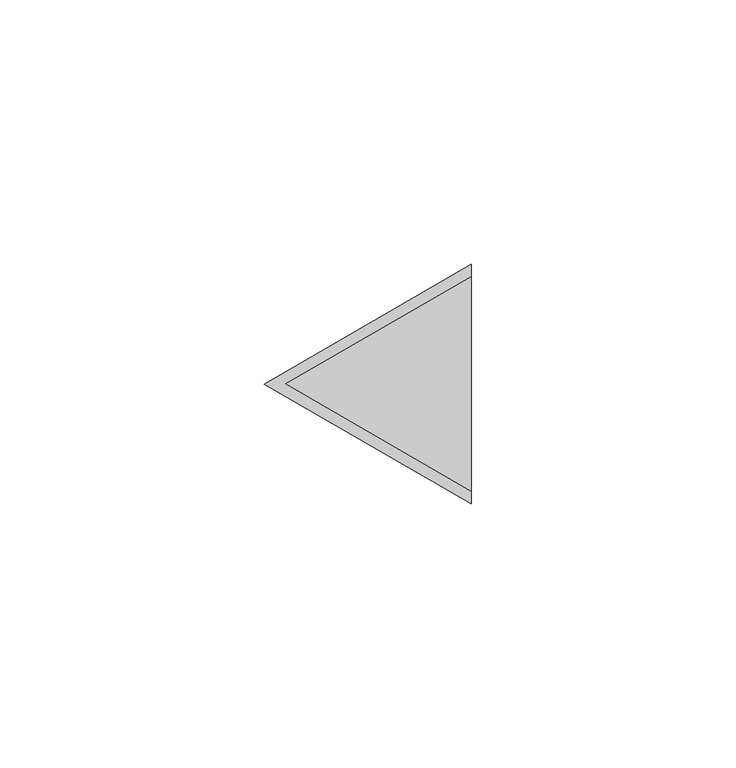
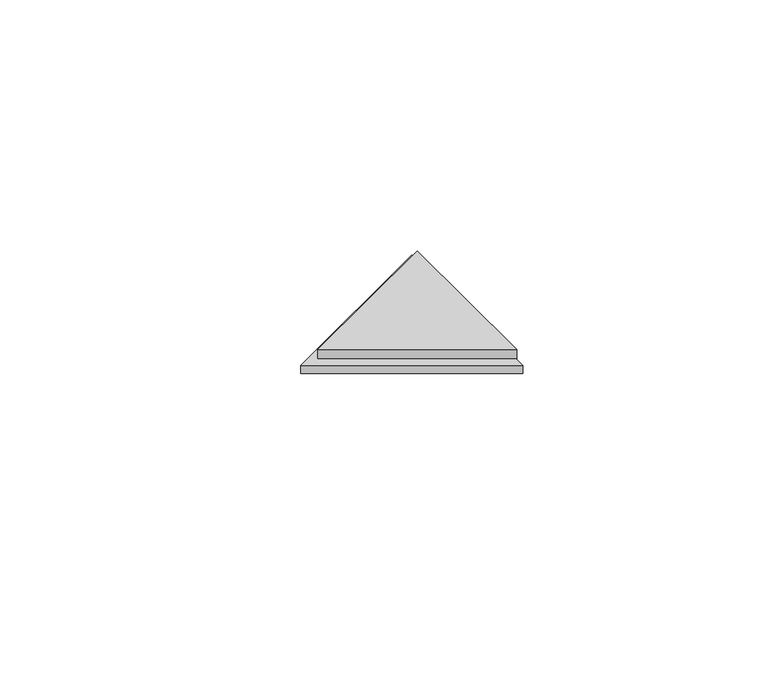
"""IFC4 building model written with IfcOpenShell, lengths in millimetres: proxy geometry, PBSHOP - CUBICA ARGENTO 4,8X8,3 : CUBICA ARGENTO - POSIÇÃO 03."""

from ifc_helpers import new_model, si_unit, frame, origin, origin_with_axes, place, context, project, spatial, polyline, outline, extrude, source, transform, mapped, element, save


def generic_models_336a48c1(model_context):
    return source(origin(), model_context, "Body", "SweptSolid", [
        extrude(outline(polyline([(-6.4307806, -22.5965882), (-45.5692194, 0.0), (-6.4307806, 22.5965882), (-6.4307806, -22.5965882)])), origin_with_axes(), (0.0, 0.0, 1.0), 2.0),
        extrude(outline(polyline([(-6.4307806, -20.2871871), (-41.5692194, 0.0), (-6.4307806, 20.2871871), (-6.4307806, -20.2871871)])), frame((0.0, 0.0, 2.0), z_axis=(0.0, 0.0, 1.0), x_axis=(1.0, 0.0, 0.0)), (0.0, 0.0, 1.0), 2.5),
    ])


if __name__ == "__main__":
    model = new_model("IFC4")
    model_context = context("Model", 3, world=origin())
    ifc_project = project(units=[si_unit("LENGTHUNIT", "METRE", prefix="MILLI")], contexts=[model_context])
    site = spatial("IfcSite", under=ifc_project)
    building = spatial("IfcBuilding", under=site)
    placement = place(None, origin())
    generic_models_shape = generic_models_336a48c1(model_context)
    element("IfcBuildingElementProxy", 1, Name="PBSHOP - CUBICA ARGENTO 4,8X8,3 : CUBICA ARGENTO - POSIÇÃO 03", ObjectType="PBSHOP - CUBICA ARGENTO 4,8X8,3 : CUBICA ARGENTO - POSIÇÃO 03", at=placement, inside=building, context=model_context, shape_type="MappedRepresentation", body=[
        mapped(generic_models_shape, transform((0.0, 0.0, 0.0), x_axis=(1.0, 0.0, 0.0), y_axis=(0.0, 1.0, 0.0), z_axis=(0.0, 0.0, 1.0))),
    ])
    save(model, "model.ifc")
